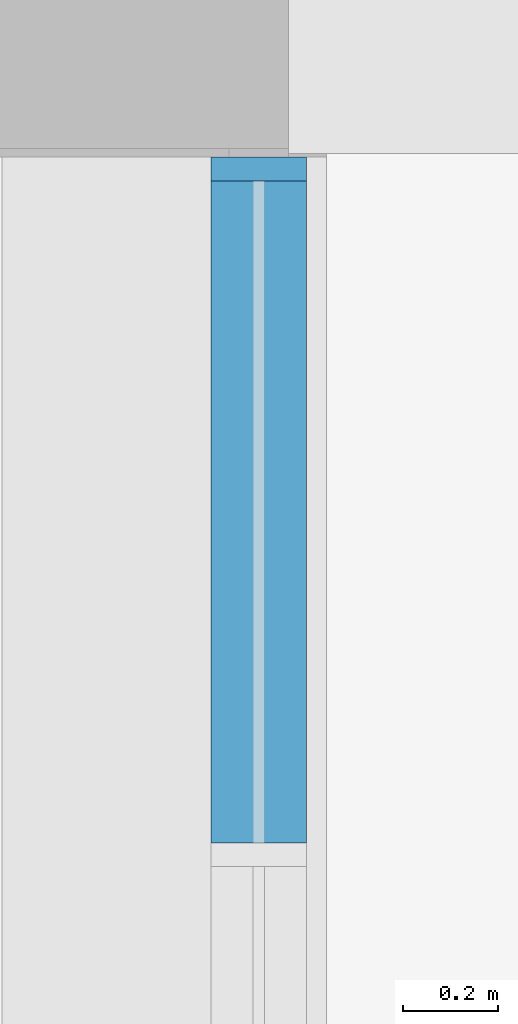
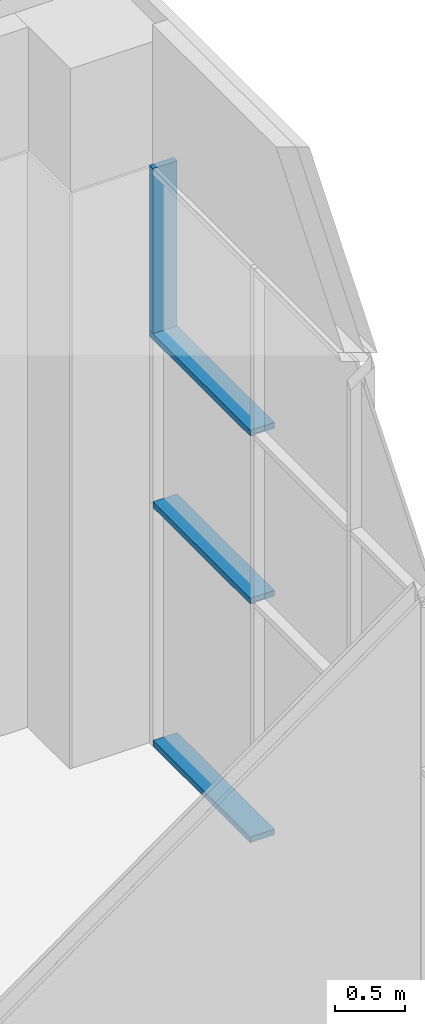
# One storey, part 15 of 100: 4 members, 1 element without a shape of its own.
"""IFC2X3 building model written with IfcOpenShell, lengths in millimetres."""

from ifc_helpers import new_model, entity, si_unit, converted_unit, derived_unit, direction, frame, origin, origin_2d_with_axis, place, context, subcontext, project, spatial, rectangle, extrude, source, transform, mapped, material, type_object, type_shapes, element, aggregate, save


model = new_model("IFC2X3")

# Units and contexts
model_context = context("Model", 3, precision=0.01, world=origin(), true_north=direction((6.123031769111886e-17, 1.0)))
body_context = subcontext(model_context, "Body", "Model", "MODEL_VIEW")
ifc_project = project(units=[si_unit("LENGTHUNIT", "METRE", prefix="MILLI"), si_unit("AREAUNIT", "SQUARE_METRE"), si_unit("VOLUMEUNIT", "CUBIC_METRE"), converted_unit("PLANEANGLEUNIT", "DEGREE", entity("IfcRatioMeasure", 0.017453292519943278), si_unit("PLANEANGLEUNIT", "RADIAN"), dimensions=[0, 0, 0, 0, 0, 0, 0]), si_unit("MASSUNIT", "GRAM", prefix="KILO"), derived_unit("MASSDENSITYUNIT", [(si_unit("MASSUNIT", "GRAM", prefix="KILO"), 1), (si_unit("LENGTHUNIT", "METRE"), -3)]), derived_unit("MOMENTOFINERTIAUNIT", [(si_unit("LENGTHUNIT", "METRE"), 4)]), si_unit("TIMEUNIT", "SECOND"), si_unit("FREQUENCYUNIT", "HERTZ"), si_unit("THERMODYNAMICTEMPERATUREUNIT", "DEGREE_CELSIUS"), derived_unit("THERMALTRANSMITTANCEUNIT", [(si_unit("MASSUNIT", "GRAM", prefix="KILO"), 1), (si_unit("THERMODYNAMICTEMPERATUREUNIT", "KELVIN"), -1), (si_unit("TIMEUNIT", "SECOND"), -3)]), derived_unit("VOLUMETRICFLOWRATEUNIT", [(si_unit("LENGTHUNIT", "METRE"), 3), (si_unit("TIMEUNIT", "SECOND"), -1)]), derived_unit("MASSFLOWRATEUNIT", [(si_unit("MASSUNIT", "GRAM", prefix="KILO"), 1), (si_unit("TIMEUNIT", "SECOND"), -1)]), derived_unit("ROTATIONALFREQUENCYUNIT", [(si_unit("TIMEUNIT", "SECOND"), -1)]), si_unit("ELECTRICCURRENTUNIT", "AMPERE"), si_unit("ELECTRICVOLTAGEUNIT", "VOLT"), si_unit("POWERUNIT", "WATT"), si_unit("FORCEUNIT", "NEWTON", prefix="KILO"), si_unit("ILLUMINANCEUNIT", "LUX"), si_unit("LUMINOUSFLUXUNIT", "LUMEN"), si_unit("LUMINOUSINTENSITYUNIT", "CANDELA"), derived_unit("USERDEFINED", [(si_unit("MASSUNIT", "GRAM", prefix="KILO"), -1), (si_unit("LENGTHUNIT", "METRE"), -2), (si_unit("TIMEUNIT", "SECOND"), 3), (si_unit("LUMINOUSFLUXUNIT", "LUMEN"), 1)]), derived_unit("SOUNDPOWERUNIT", [(si_unit("MASSUNIT", "GRAM", prefix="KILO"), 1), (si_unit("LENGTHUNIT", "METRE"), 2), (si_unit("TIMEUNIT", "SECOND"), -3)]), derived_unit("SOUNDPRESSUREUNIT", [(si_unit("MASSUNIT", "GRAM", prefix="KILO"), 1), (si_unit("LENGTHUNIT", "METRE"), -1), (si_unit("TIMEUNIT", "SECOND"), -2)]), derived_unit("LINEARVELOCITYUNIT", [(si_unit("LENGTHUNIT", "METRE"), 1), (si_unit("TIMEUNIT", "SECOND"), -1)]), si_unit("PRESSUREUNIT", "PASCAL"), derived_unit("USERDEFINED", [(si_unit("LENGTHUNIT", "METRE"), -2), (si_unit("MASSUNIT", "GRAM", prefix="KILO"), 1), (si_unit("TIMEUNIT", "SECOND"), -2)]), derived_unit("LINEARFORCEUNIT", [(si_unit("MASSUNIT", "GRAM", prefix="KILO"), 1), (si_unit("LENGTHUNIT", "METRE"), 1), (si_unit("TIMEUNIT", "SECOND"), -2), (si_unit("LENGTHUNIT", "METRE"), -1)]), derived_unit("PLANARFORCEUNIT", [(si_unit("MASSUNIT", "GRAM", prefix="KILO"), 1), (si_unit("LENGTHUNIT", "METRE"), 1), (si_unit("TIMEUNIT", "SECOND"), -2), (si_unit("LENGTHUNIT", "METRE"), -2)])], contexts=[model_context])

# Site, building, storey
site_placement = place(None, frame((-14167.972527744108, -657.2125860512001, 0.0)))
site = spatial("IfcSite", under=ifc_project, at=site_placement, Name="Default", CompositionType="ELEMENT")
building_placement = place(site_placement, origin())
building = spatial("IfcBuilding", under=site, at=building_placement, Name="Sample Building", CompositionType="ELEMENT")
storey_placement = place(building_placement, origin())
storey = spatial("IfcBuildingStorey", under=building, at=storey_placement, Name="지상 1층", CompositionType="ELEMENT", Elevation=0.0)

# Curtain wall, members
curtain_wall_type = type_object("IfcCurtainWallType", Name="커튼월:CW112-스테인리스 스틸 커튼월", PredefinedType="NOTDEFINED")
curtain_wall_placement = place(storey_placement, origin())
curtain_wall = element("IfcCurtainWall", 1, at=curtain_wall_placement, inside=storey, type_object=curtain_wall_type, Name="커튼월:CW112-스테인리스 스틸 커튼월", ObjectType="커튼월:CW112-스테인리스 스틸 커튼월")
ifc_material = material(Name="<Unnamed>")
member_type_1 = type_object("IfcMemberType", Name="직사각형 멀리언:CW200-직사각형 멀리언 50x200mm", PredefinedType="MULLION", material=ifc_material)
shared_shape_1 = source(origin(), body_context, "Body", "SweptSolid", [
    extrude(rectangle(XDim=200.0, YDim=50.0, at=origin_2d_with_axis()), frame((-25.0, 0.0, -1435.0), z_axis=(0.0, 0.0, 1.0), x_axis=(0.0, -1.0, 0.0)), (0.0, 0.0, 1.0), 1435.0000000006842),
])
type_shapes(member_type_1, [shared_shape_1])
member_1_placement = place(curtain_wall_placement, frame((51405.48121489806, 28439.212704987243, 2165.0), z_axis=(0.0, 0.0, -1.0), x_axis=(0.0, 1.0, 0.0)))
member_1 = element("IfcMember", 2, at=member_1_placement, type_object=member_type_1, material=ifc_material, Name="직사각형 멀리언:CW200-직사각형 멀리언 50x200mm", ObjectType="직사각형 멀리언:CW200-직사각형 멀리언 50x200mm", context=body_context, shape_type="MappedRepresentation", body=[
    mapped(shared_shape_1, transform((0.0, 0.0, 0.0), scale=1.0)),
])
member_type_2 = type_object("IfcMemberType", Name="직사각형 멀리언:CW200-직사각형 멀리언 50x200mm", PredefinedType="MULLION", material=ifc_material)
shared_shape_2 = source(origin(), body_context, "Body", "SweptSolid", [
    extrude(rectangle(XDim=200.0, YDim=50.0, at=origin_2d_with_axis()), frame((-25.0, 0.0, -1387.0349926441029), z_axis=(0.0, 0.0, 1.0), x_axis=(0.0, -1.0, 0.0)), (0.0, 0.0, 1.0), 1387.0349926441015),
])
type_shapes(member_type_2, [shared_shape_2])
member_2_placement = place(curtain_wall_placement, frame((51405.48121489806, 27002.177712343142, -1420.0), z_axis=(0.0, -1.0, 0.0), x_axis=(0.0, 0.0, -1.0)))
member_2 = element("IfcMember", 3, at=member_2_placement, type_object=member_type_2, material=ifc_material, Name="직사각형 멀리언:CW200-직사각형 멀리언 50x200mm", ObjectType="직사각형 멀리언:CW200-직사각형 멀리언 50x200mm", context=body_context, shape_type="MappedRepresentation", body=[
    mapped(shared_shape_2, transform((0.0, 0.0, 0.0), scale=1.0)),
])
member_type_3 = type_object("IfcMemberType", Name="직사각형 멀리언:CW200-직사각형 멀리언 50x200mm", PredefinedType="MULLION", material=ifc_material)
shared_shape_3 = source(origin(), body_context, "Body", "SweptSolid", [
    extrude(rectangle(XDim=200.0, YDim=50.0, at=origin_2d_with_axis()), frame((0.0, 0.0, -1387.0349926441), z_axis=(0.0, 0.0, 1.0), x_axis=(0.0, -1.0, 0.0)), (0.0, 0.0, 1.0), 1387.0349926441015),
])
type_shapes(member_type_3, [shared_shape_3])
member_3_placement = place(curtain_wall_placement, frame((51405.48121489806, 28389.212704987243, 680.0), z_axis=(0.0, 1.0, 0.0), x_axis=(0.0, 0.0, 1.0)))
member_3 = element("IfcMember", 4, at=member_3_placement, type_object=member_type_3, material=ifc_material, Name="직사각형 멀리언:CW200-직사각형 멀리언 50x200mm", ObjectType="직사각형 멀리언:CW200-직사각형 멀리언 50x200mm", context=body_context, shape_type="MappedRepresentation", body=[
    mapped(shared_shape_3, transform((0.0, 0.0, 0.0), scale=1.0)),
])
member_type_4 = type_object("IfcMemberType", Name="직사각형 멀리언:CW200-직사각형 멀리언 50x200mm", PredefinedType="MULLION", material=ifc_material)
shared_shape_4 = source(origin(), body_context, "Body", "SweptSolid", [
    extrude(rectangle(XDim=200.0, YDim=50.0, at=origin_2d_with_axis()), frame((0.0, 0.0, -1437.0349926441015), z_axis=(0.0, 0.0, 1.0), x_axis=(0.0, -1.0, 0.0)), (0.0, 0.0, 1.0), 1437.0349926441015),
])
type_shapes(member_type_4, [shared_shape_4])
member_4_placement = place(curtain_wall_placement, frame((51405.48121489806, 28439.212704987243, 2140.0), z_axis=(0.0, 1.0, 0.0), x_axis=(0.0, 0.0, 1.0)))
member_4 = element("IfcMember", 5, at=member_4_placement, type_object=member_type_4, material=ifc_material, Name="직사각형 멀리언:CW200-직사각형 멀리언 50x200mm", ObjectType="직사각형 멀리언:CW200-직사각형 멀리언 50x200mm", context=body_context, shape_type="MappedRepresentation", body=[
    mapped(shared_shape_4, transform((0.0, 0.0, 0.0), scale=1.0)),
])
aggregate(curtain_wall, [member_1, member_2, member_3, member_4])

save(model, "model.ifc")
